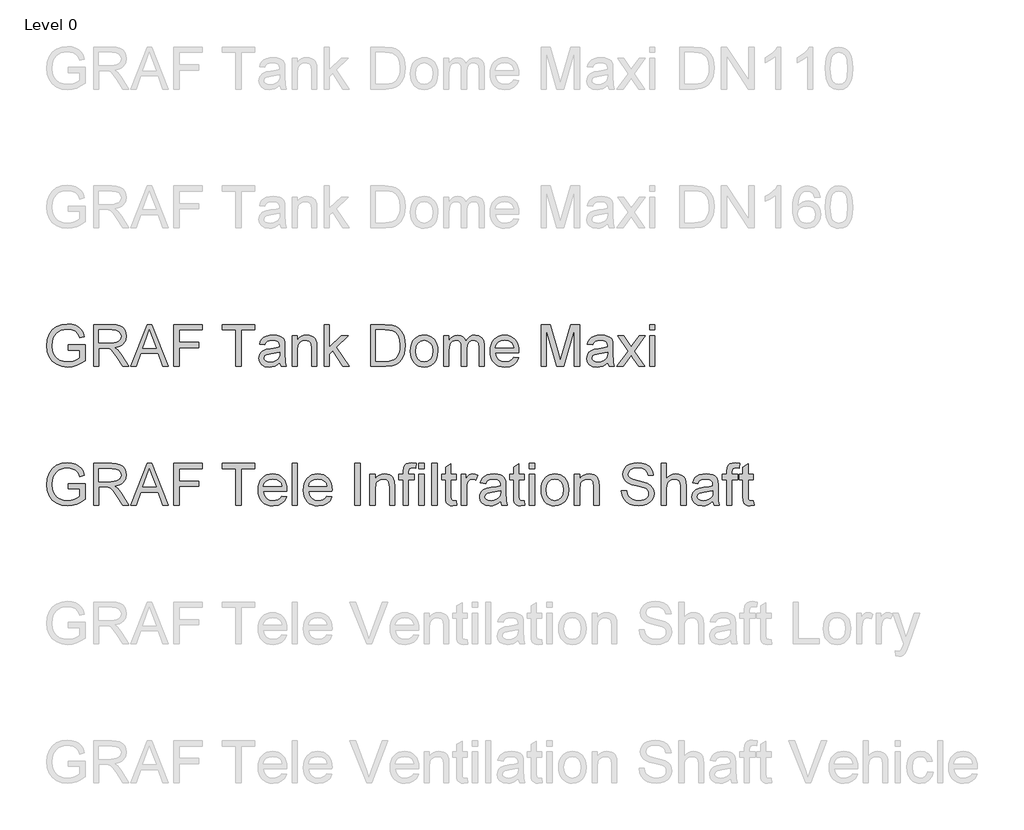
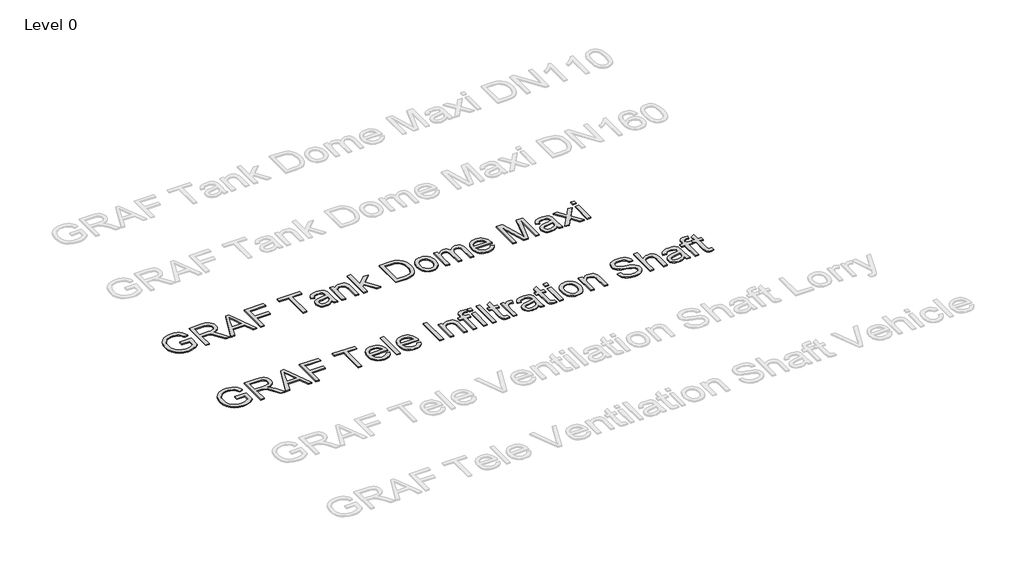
# One storey, part 7 of 25: 2 proxies.
"""IFC4 building model written with IfcOpenShell, lengths in millimetres."""

from ifc_helpers import new_model, si_unit, origin, origin_with_axes, place, context, project, spatial, polyline, outline, extrude, element, save

model = new_model("IFC4")

# Units and contexts
model_context = context("Model", 3, world=origin())
ifc_project = project(units=[si_unit("LENGTHUNIT", "METRE", prefix="MILLI")], contexts=[model_context])

# Site, building, storey
site = spatial("IfcSite", under=ifc_project)
building = spatial("IfcBuilding", under=site)
storey = spatial("IfcBuildingStorey", under=building, Name="Level 0", Elevation=0.0)

# Proxies
placement = place(None, origin())
element("IfcBuildingElementProxy", 1, Name="300mm Arial", ObjectType="300mm Arial", at=placement, inside=storey, context=model_context, shape_type="SweptSolid", body=[
    extrude(outline(polyline([(-15240.9940387, -5083.2545597), (-15240.9940387, -5045.5834434), (-15118.5629107, -5045.5834434), (-15118.5629107, -5158.2289103), (-15148.3153671, -5178.9222726), (-15179.0059225, -5193.7663111), (-15210.5610007, -5202.7058436), (-15242.9070251, -5205.6856877), (-15285.1674693, -5200.949207), (-15323.3628175, -5186.739765), (-15355.0926395, -5163.5540022), (-15377.9565055, -5131.8885595), (-15391.7796715, -5093.9047435), (-15396.3873935, -5051.7638609), (-15391.7980656, -5009.3194757), (-15378.0300819, -4969.8365406), (-15355.6536596, -4936.717964), (-15325.2390156, -4913.3666543), (-15288.1932987, -4899.5158972), (-15245.9236575, -4894.8989782), (-15214.8928112, -4897.5753197), (-15186.9889618, -4905.6043443), (-15163.4904994, -4918.4066377), (-15145.6758138, -4935.4027859), (-15132.4964413, -4957.4113262), (-15122.9039183, -4985.2507962), (-15157.6319786, -4995.0364573), (-15165.3850917, -4975.1800266), (-15174.8120678, -4960.1980323), (-15187.2832674, -4948.9040551), (-15204.169051, -4940.1116754), (-15224.3013932, -4934.4554897), (-15246.5122687, -4932.5700945), (-15272.5123287, -4934.6026425), (-15294.7415982, -4940.7002866), (-15313.1173039, -4950.0996716), (-15327.5566722, -4962.0374423), (-15346.9440533, -4991.0633317), (-15355.7732212, -5019.50061), (-15358.7162772, -5050.2187566), (-15355.175413, -5086.2436009), (-15344.5528204, -5115.8856927), (-15327.1703961, -5138.9334997), (-15303.3500369, -5155.1754898), (-15275.4737787, -5164.804801), (-15245.9236575, -5168.0145714), (-15219.831627, -5165.5957473), (-15194.3833899, -5158.3392749), (-15172.2828791, -5148.3420817), (-15156.234027, -5137.701095), (-15156.234027, -5083.2545597), (-15240.9940387, -5083.2545597)])), origin_with_axes(), (0.0, 0.0, 1.0), 10.0),
    extrude(outline(polyline([(-15057.3473467, -5200.9767982), (-15057.3473467, -4899.6078677), (-14927.4850024, -4899.6078677), (-14892.5821982, -4901.6404158), (-14867.1891434, -4907.7380598), (-14848.6294968, -4918.9952489), (-14834.2269167, -4936.5064318), (-14824.9838815, -4958.2206666), (-14821.9028698, -4982.087011), (-14827.0072325, -5011.7750881), (-14842.3203206, -5036.3863935), (-14853.9200997, -5046.4157764), (-14868.3019865, -5054.4310054), (-14905.4120827, -5064.4190016), (-14884.0013506, -5080.532233), (-14853.467145, -5119.3069952), (-14803.2144645, -5200.9767982), (-14846.9924219, -5200.9767982), (-14886.2086426, -5138.5104354), (-14914.5355562, -5097.1604991), (-14934.4379722, -5077.6259652), (-14952.3538253, -5070.4522663), (-14974.2060158, -5069.1278911), (-15019.6762304, -5069.1278911), (-15019.6762304, -5200.9767982), (-15057.3473467, -5200.9767982)]), holes=[polyline([(-15019.6762304, -5031.4567748), (-14935.3576771, -5031.4567748), (-14911.1418448, -5030.1232026), (-14892.3522719, -5026.1224859), (-14878.2072092, -5019.1879103), (-14867.9249074, -5009.0527613), (-14861.6617165, -4996.7930938), (-14859.5739861, -4983.4849626), (-14863.5563087, -4965.109257), (-14875.5032765, -4950.3020067), (-14896.058683, -4940.5347397), (-14925.8663217, -4937.278984), (-15019.6762304, -4937.278984), (-15019.6762304, -5031.4567748)])]), origin_with_axes(), (0.0, 0.0, 1.0), 10.0),
    extrude(outline(polyline([(-14791.0743586, -5200.9767982), (-14670.7769462, -4899.6078677), (-14638.6976362, -4899.6078677), (-14518.4002238, -5200.9767982), (-14558.2050557, -5200.9767982), (-14592.7123868, -5106.7990074), (-14716.835772, -5106.7990074), (-14751.2695268, -5200.9767982), (-14791.0743586, -5200.9767982)]), holes=[polyline([(-14703.003409, -5069.1278911), (-14606.4711735, -5069.1278911), (-14633.6208647, -4995.0364573), (-14654.7372912, -4937.278984), (-14673.499273, -4988.5617342), (-14703.003409, -5069.1278911)])]), origin_with_axes(), (0.0, 0.0, 1.0), 10.0),
    extrude(outline(polyline([(-14478.1539335, -5200.9767982), (-14478.1539335, -4899.6078677), (-14275.6716834, -4899.6078677), (-14275.6716834, -4937.278984), (-14440.4828172, -4937.278984), (-14440.4828172, -5026.7478853), (-14299.2161311, -5026.7478853), (-14299.2161311, -5064.4190016), (-14440.4828172, -5064.4190016), (-14440.4828172, -5200.9767982), (-14478.1539335, -5200.9767982)])), origin_with_axes(), (0.0, 0.0, 1.0), 10.0),
    extrude(outline(polyline([(-14030.8094274, -5200.9767982), (-14030.8094274, -4937.278984), (-14129.6961077, -4937.278984), (-14129.6961077, -4899.6078677), (-13894.2516308, -4899.6078677), (-13894.2516308, -4937.278984), (-13993.1383111, -4937.278984), (-13993.1383111, -5200.9767982), (-14030.8094274, -5200.9767982)])), origin_with_axes(), (0.0, 0.0, 1.0), 10.0),
    extrude(outline(polyline([(-13715.3138283, -5172.7234609), (-13733.312455, -5188.1561106), (-13751.8445105, -5198.2544714), (-13771.3330592, -5203.8278836), (-13792.2011653, -5205.6856877), (-13823.6826671, -5201.2159215), (-13846.905218, -5187.8066228), (-13861.2250247, -5167.4443543), (-13865.9982936, -5142.1156789), (-13864.1956718, -5126.4990883), (-13858.7878065, -5112.3172373), (-13850.4460822, -5100.1771315), (-13839.8418837, -5090.685776), (-13813.4647447, -5078.324941), (-13780.8703999, -5072.6595583), (-13742.353155, -5066.6998699), (-13715.5345575, -5059.710112), (-13715.3138283, -5051.3224025), (-13717.9073964, -5034.5101954), (-13725.6881006, -5023.5105237), (-13743.088919, -5015.3435434), (-13767.3323425, -5012.6212166), (-13789.7731442, -5014.4330355), (-13805.4449172, -5019.868492), (-13816.1318891, -5029.9208675), (-13823.6182877, -5045.5834434), (-13861.289404, -5040.8745539), (-13854.7503016, -5020.2731621), (-13844.9922316, -5004.0863544), (-13831.1046863, -4991.7071252), (-13812.1771577, -4982.5284694), (-13789.0281831, -4976.8446926), (-13762.4763001, -4974.9501003), (-13737.009669, -4976.6239634), (-13716.8221445, -4981.6455527), (-13701.601027, -4989.1963306), (-13691.0336167, -4998.4577598), (-13684.0254646, -5009.9080869), (-13679.482122, -5024.0255585), (-13677.642712, -5056.9877853), (-13677.642712, -5103.8559515), (-13675.7297257, -5169.3021584), (-13668.224933, -5200.9767982), (-13705.8960493, -5200.9767982), (-13715.3138283, -5172.7234609)]), holes=[polyline([(-13715.3138283, -5097.3812283), (-13776.0879339, -5108.932723), (-13808.4983377, -5115.0395641), (-13823.1768293, -5124.972378), (-13828.3271773, -5139.4669286), (-13825.522077, -5150.6689353), (-13817.1067764, -5159.8475911), (-13803.2652163, -5165.9728263), (-13784.1813378, -5168.0145714), (-13763.9478281, -5165.7612942), (-13746.0687631, -5159.0014625), (-13731.5742125, -5149.0410575), (-13721.4942459, -5137.1860602), (-13717.0244796, -5124.972378), (-13715.5345575, -5108.0498062), (-13715.3138283, -5097.3812283)])]), origin_with_axes(), (0.0, 0.0, 1.0), 10.0),
    extrude(outline(polyline([(-13625.8449271, -5200.9767982), (-13625.8449271, -4979.6589899), (-13588.1738108, -4979.6589899), (-13588.1738108, -5010.5610775), (-13575.0864088, -4994.981275), (-13559.3686506, -4983.8528446), (-13541.0205361, -4977.1757864), (-13520.0420653, -4974.9501003), (-13501.4732216, -4976.7435251), (-13484.4678764, -4982.1237992), (-13470.2860255, -4990.4195382), (-13460.1876647, -5000.9593574), (-13448.8936874, -5028.6608716), (-13446.9071247, -5065.0811892), (-13446.9071247, -5200.9767982), (-13484.578241, -5200.9767982), (-13484.578241, -5070.1579607), (-13488.9192485, -5036.8278519), (-13494.9249221, -5026.9042351), (-13504.2599277, -5019.2063044), (-13516.2252896, -5014.2674886), (-13530.122032, -5012.6212166), (-13552.1857546, -5016.3184307), (-13570.9937216, -5027.4100729), (-13578.5100106, -5036.4645685), (-13583.8787885, -5048.8391991), (-13588.1738108, -5083.5488653), (-13588.1738108, -5200.9767982), (-13625.8449271, -5200.9767982)])), origin_with_axes(), (0.0, 0.0, 1.0), 10.0),
    extrude(outline(polyline([(-13395.1093397, -5200.9767982), (-13395.1093397, -4899.6078677), (-13357.4382234, -4899.6078677), (-13357.4382234, -5061.549522), (-13272.9725173, -4979.6589899), (-13220.8804268, -4979.6589899), (-13306.3762025, -5062.5795916), (-13216.1715373, -5200.9767982), (-13260.1702239, -5200.9767982), (-13333.3787409, -5088.7727896), (-13357.4382234, -5112.0965081), (-13357.4382234, -5200.9767982), (-13395.1093397, -5200.9767982)])), origin_with_axes(), (0.0, 0.0, 1.0), 10.0),
    extrude(outline(polyline([(-13060.7781825, -5200.9767982), (-13060.7781825, -4899.6078677), (-12956.8147307, -4899.6078677), (-12903.030383, -4903.9488753), (-12879.0076887, -4912.3181907), (-12858.7373908, -4925.5067602), (-12837.8968757, -4948.4625967), (-12823.0528372, -4977.0102395), (-12814.1684871, -5010.5978657), (-12811.207037, -5048.6736522), (-12813.2119939, -5081.0196766), (-12819.2268645, -5109.484546), (-12828.3871262, -5133.7187724), (-12839.8282562, -5153.372868), (-12852.9984316, -5168.8882911), (-12867.3458295, -5180.7065002), (-12883.8177458, -5189.4712888), (-12903.3614768, -5195.8264502), (-12951.8115355, -5200.9767982), (-13060.7781825, -5200.9767982)]), holes=[polyline([(-13023.1070662, -5163.3056819), (-12956.4468487, -5163.3056819), (-12928.8740931, -5161.9445185), (-12907.9600017, -5157.8610283), (-12892.1778641, -5151.2943347), (-12880.0009701, -5142.4835609), (-12866.9135681, -5126.1771915), (-12857.0819218, -5105.069962), (-12850.9290954, -5079.069902), (-12848.8781533, -5048.085041), (-12852.8972641, -5007.0294103), (-12864.9545965, -4976.7159339), (-12882.7692821, -4955.893813), (-12904.0604526, -4943.3122488), (-12925.7287021, -4938.7873002), (-12957.4769183, -4937.278984), (-13023.1070662, -4937.278984), (-13023.1070662, -5163.3056819)])]), origin_with_axes(), (0.0, 0.0, 1.0), 10.0),
    extrude(outline(polyline([(-12773.5359207, -5090.317894), (-12771.4987741, -5061.6552881), (-12765.3873345, -5036.9566106), (-12755.2016018, -5016.2218617), (-12740.9415759, -4999.4510412), (-12726.5849811, -4988.7318796), (-12710.7384641, -4981.0753356), (-12693.4020251, -4976.4814091), (-12674.575664, -4974.9501003), (-12653.7926305, -4976.8148022), (-12635.0007584, -4982.4089078), (-12618.2000475, -4991.7324171), (-12603.3904979, -5004.7853302), (-12591.3032751, -5021.1261885), (-12582.6695445, -5040.3135338), (-12577.4893062, -5062.3473661), (-12575.7625601, -5087.2276853), (-12578.8159806, -5125.2850777), (-12587.9762423, -5154.2557848), (-12602.9766307, -5175.9516255), (-12623.5504313, -5192.1844185), (-12647.9869928, -5202.3103704), (-12674.575664, -5205.6856877), (-12695.6622001, -5203.8278836), (-12714.6288162, -5198.2544714), (-12731.4755123, -5188.965451), (-12746.2022884, -5175.9608225), (-12758.1607526, -5159.461315), (-12766.7025126, -5139.6876578), (-12771.8275687, -5116.6398508), (-12773.5359207, -5090.317894)]), holes=[polyline([(-12735.8648044, -5090.2443176), (-12731.5054027, -5124.3377815), (-12718.4271978, -5148.6271903), (-12698.7455111, -5163.1677261), (-12674.575664, -5168.0145714), (-12650.5161815, -5163.140135), (-12630.871283, -5148.5168257), (-12617.793078, -5123.9055202), (-12613.4336764, -5089.0670952), (-12617.8206692, -5055.9669127), (-12630.9816476, -5032.0085978), (-12650.6541372, -5017.4680619), (-12674.575664, -5012.6212166), (-12698.7455111, -5017.4496678), (-12718.4271978, -5031.9350214), (-12731.5054027, -5056.1692478), (-12735.8648044, -5090.2443176)])]), origin_with_axes(), (0.0, 0.0, 1.0), 10.0),
    extrude(outline(polyline([(-12533.3825542, -5200.9767982), (-12533.3825542, -4979.6589899), (-12495.7114379, -4979.6589899), (-12495.7114379, -5016.0793074), (-12484.3806725, -4999.3498737), (-12469.8125455, -4986.2440776), (-12452.5036976, -4977.7735947), (-12432.9507696, -4974.9501003), (-12411.9998899, -4977.828777), (-12395.2060768, -4986.4648068), (-12382.6613008, -5000.2879728), (-12374.4575323, -5018.7280578), (-12360.7263368, -4999.5752014), (-12345.0637609, -4985.8945897), (-12327.4698045, -4977.6862227), (-12307.9444676, -4974.9501003), (-12279.626751, -4979.50264), (-12258.6850684, -4993.1602591), (-12245.7448193, -5016.2908395), (-12241.4314029, -5049.2622634), (-12241.4314029, -5200.9767982), (-12279.1025192, -5200.9767982), (-12279.1025192, -5065.4490712), (-12282.5973981, -5033.9951606), (-12287.5086228, -5025.3223425), (-12295.2525388, -5018.5073286), (-12305.2129438, -5014.0927446), (-12316.7736355, -5012.6212166), (-12337.1818892, -5016.3920071), (-12353.8193524, -5027.7043784), (-12364.8834034, -5047.3308829), (-12368.5714204, -5076.0440726), (-12368.5714204, -5200.9767982), (-12406.2425367, -5200.9767982), (-12406.2425367, -5061.2552164), (-12408.4222375, -5039.9548489), (-12414.96134, -5024.7613225), (-12426.4668494, -5015.6562431), (-12443.545771, -5012.6212166), (-12458.0587157, -5014.6445676), (-12471.4312262, -5020.7146205), (-12482.4676861, -5030.6842226), (-12489.9724788, -5044.406221), (-12494.2766981, -5063.4441143), (-12495.7114379, -5089.3614008), (-12495.7114379, -5200.9767982), (-12533.3825542, -5200.9767982)])), origin_with_axes(), (0.0, 0.0, 1.0), 10.0),
    extrude(outline(polyline([(-12029.972832, -5135.0523446), (-11993.0374797, -5139.7612342), (-12006.3456109, -5167.5915071), (-12027.5815991, -5188.3952339), (-12056.2671976, -5201.3630743), (-12091.92416, -5205.6856877), (-12115.2984623, -5203.8209859), (-12136.1251817, -5198.2268803), (-12154.4043184, -5188.9033709), (-12170.1358722, -5175.8504579), (-12182.7864143, -5159.4314246), (-12191.8225158, -5140.0095545), (-12197.2441767, -5117.5848477), (-12199.051397, -5092.157304), (-12197.2257826, -5065.8675369), (-12191.7489394, -5042.6955698), (-12182.6208674, -5022.6414025), (-12169.8415666, -5005.7050351), (-12154.1513995, -4992.2497512), (-12136.2907286, -4982.638834), (-12116.259554, -4976.8722838), (-12094.0578756, -4974.9501003), (-12072.5712678, -4976.8676852), (-12053.1402007, -4982.6204399), (-12035.7646742, -4992.2083644), (-12020.4446884, -5005.6314587), (-12007.9389998, -5022.5310379), (-11999.0063651, -5042.548417), (-11993.6467843, -5065.6835959), (-11991.8602573, -5091.9365748), (-11992.0809865, -5102.0901179), (-12161.3802807, -5102.0901179), (-12154.8595723, -5130.2882728), (-12139.7120312, -5151.0184232), (-12117.8506436, -5163.7655344), (-12091.188396, -5168.0145714), (-12071.1388273, -5166.0464027), (-12054.2530437, -5160.1418967), (-12040.5310453, -5149.9331713), (-12029.972832, -5135.0523446)]), holes=[polyline([(-12161.3802807, -5064.4190016), (-12029.5313736, -5064.4190016), (-12034.6265393, -5044.5165856), (-12044.6145354, -5030.2795524), (-12066.5770906, -5017.0358006), (-12094.2050284, -5012.6212166), (-12119.5980831, -5016.1436868), (-12140.594948, -5026.7110971), (-12155.1906661, -5043.1830134), (-12161.3802807, -5064.4190016)])]), origin_with_axes(), (0.0, 0.0, 1.0), 10.0),
    extrude(outline(polyline([(-11831.758013, -5200.9767982), (-11831.758013, -4899.6078677), (-11766.9372055, -4899.6078677), (-11705.2801831, -5112.0229317), (-11692.8457717, -5156.3895004), (-11679.3812906, -5108.3441118), (-11618.7543378, -4899.6078677), (-11553.9335303, -4899.6078677), (-11553.9335303, -5200.9767982), (-11591.6046466, -5200.9767982), (-11591.6046466, -4937.278984), (-11667.3147612, -5200.9767982), (-11718.3767821, -5200.9767982), (-11794.0868967, -4937.278984), (-11794.0868967, -5200.9767982), (-11831.758013, -5200.9767982)])), origin_with_axes(), (0.0, 0.0, 1.0), 10.0),
    extrude(outline(polyline([(-11351.4512801, -5172.7234609), (-11369.4499067, -5188.1561106), (-11387.9819623, -5198.2544714), (-11407.4705109, -5203.8278836), (-11428.3386171, -5205.6856877), (-11459.8201189, -5201.2159215), (-11483.0426698, -5187.8066228), (-11497.3624765, -5167.4443543), (-11502.1357454, -5142.1156789), (-11500.3331236, -5126.4990883), (-11494.9252582, -5112.3172373), (-11486.583534, -5100.1771315), (-11475.9793355, -5090.685776), (-11449.6021964, -5078.324941), (-11417.0078517, -5072.6595583), (-11378.4906068, -5066.6998699), (-11351.6720093, -5059.710112), (-11351.4512801, -5051.3224025), (-11354.0448482, -5034.5101954), (-11361.8255524, -5023.5105237), (-11379.2263708, -5015.3435434), (-11403.4697942, -5012.6212166), (-11425.910596, -5014.4330355), (-11441.5823689, -5019.868492), (-11452.2693409, -5029.9208675), (-11459.7557395, -5045.5834434), (-11497.4268558, -5040.8745539), (-11490.8877534, -5020.2731621), (-11481.1296834, -5004.0863544), (-11467.2421381, -4991.7071252), (-11448.3146095, -4982.5284694), (-11425.1656349, -4976.8446926), (-11398.6137519, -4974.9501003), (-11373.1471208, -4976.6239634), (-11352.9595963, -4981.6455527), (-11337.7384788, -4989.1963306), (-11327.1710684, -4998.4577598), (-11320.1629164, -5009.9080869), (-11315.6195738, -5024.0255585), (-11313.7801638, -5056.9877853), (-11313.7801638, -5103.8559515), (-11311.8671774, -5169.3021584), (-11304.3623847, -5200.9767982), (-11342.0335011, -5200.9767982), (-11351.4512801, -5172.7234609)]), holes=[polyline([(-11351.4512801, -5097.3812283), (-11412.2253857, -5108.932723), (-11444.6357895, -5115.0395641), (-11459.3142811, -5124.972378), (-11464.464629, -5139.4669286), (-11461.6595288, -5150.6689353), (-11453.2442282, -5159.8475911), (-11439.4026681, -5165.9728263), (-11420.3187896, -5168.0145714), (-11400.0852799, -5165.7612942), (-11382.2062149, -5159.0014625), (-11367.7116643, -5149.0410575), (-11357.6316976, -5137.1860602), (-11353.1619314, -5124.972378), (-11351.6720093, -5108.0498062), (-11351.4512801, -5097.3812283)])]), origin_with_axes(), (0.0, 0.0, 1.0), 10.0),
    extrude(outline(polyline([(-11285.5268266, -5200.9767982), (-11205.0342461, -5089.7292828), (-11280.8179371, -4979.6589899), (-11235.4948753, -4979.6589899), (-11198.9274049, -5032.6339972), (-11181.8576804, -5057.6499729), (-11167.0688241, -5037.1957339), (-11125.4245823, -4979.6589899), (-11080.1015205, -4979.6589899), (-11159.7111842, -5089.7292828), (-11083.0445764, -5200.9767982), (-11128.3676383, -5200.9767982), (-11174.5000405, -5134.0958515), (-11182.9613263, -5121.8821692), (-11240.2037648, -5200.9767982), (-11285.5268266, -5200.9767982)])), origin_with_axes(), (0.0, 0.0, 1.0), 10.0),
    extrude(outline(polyline([(-11050.0823497, -4937.278984), (-11050.0823497, -4899.6078677), (-11012.4112334, -4899.6078677), (-11012.4112334, -4937.278984), (-11050.0823497, -4937.278984)])), origin_with_axes(), (0.0, 0.0, 1.0), 10.0),
    extrude(outline(polyline([(-11050.0823497, -5200.9767982), (-11050.0823497, -4979.6589899), (-11012.4112334, -4979.6589899), (-11012.4112334, -5200.9767982), (-11050.0823497, -5200.9767982)])), origin_with_axes(), (0.0, 0.0, 1.0), 10.0),
])
element("IfcBuildingElementProxy", 2, Name="300mm Arial", ObjectType="300mm Arial", at=placement, inside=storey, context=model_context, shape_type="SweptSolid", body=[
    extrude(outline(polyline([(-15240.9940387, -6083.2545597), (-15240.9940387, -6045.5834434), (-15118.5629107, -6045.5834434), (-15118.5629107, -6158.2289103), (-15148.3153671, -6178.9222726), (-15179.0059225, -6193.7663111), (-15210.5610007, -6202.7058436), (-15242.9070251, -6205.6856877), (-15285.1674693, -6200.949207), (-15323.3628175, -6186.739765), (-15355.0926395, -6163.5540022), (-15377.9565055, -6131.8885595), (-15391.7796715, -6093.9047435), (-15396.3873935, -6051.7638609), (-15391.7980656, -6009.3194757), (-15378.0300819, -5969.8365406), (-15355.6536596, -5936.717964), (-15325.2390156, -5913.3666543), (-15288.1932987, -5899.5158972), (-15245.9236575, -5894.8989782), (-15214.8928112, -5897.5753197), (-15186.9889618, -5905.6043443), (-15163.4904994, -5918.4066377), (-15145.6758138, -5935.4027859), (-15132.4964413, -5957.4113262), (-15122.9039183, -5985.2507962), (-15157.6319786, -5995.0364573), (-15165.3850917, -5975.1800266), (-15174.8120678, -5960.1980323), (-15187.2832674, -5948.9040551), (-15204.169051, -5940.1116754), (-15224.3013932, -5934.4554897), (-15246.5122687, -5932.5700945), (-15272.5123287, -5934.6026425), (-15294.7415982, -5940.7002866), (-15313.1173039, -5950.0996716), (-15327.5566722, -5962.0374423), (-15346.9440533, -5991.0633317), (-15355.7732212, -6019.50061), (-15358.7162772, -6050.2187566), (-15355.175413, -6086.2436009), (-15344.5528204, -6115.8856927), (-15327.1703961, -6138.9334997), (-15303.3500369, -6155.1754898), (-15275.4737787, -6164.804801), (-15245.9236575, -6168.0145714), (-15219.831627, -6165.5957473), (-15194.3833899, -6158.3392749), (-15172.2828791, -6148.3420817), (-15156.234027, -6137.701095), (-15156.234027, -6083.2545597), (-15240.9940387, -6083.2545597)])), origin_with_axes(), (0.0, 0.0, 1.0), 10.0),
    extrude(outline(polyline([(-15057.3473467, -6200.9767982), (-15057.3473467, -5899.6078677), (-14927.4850024, -5899.6078677), (-14892.5821982, -5901.6404158), (-14867.1891434, -5907.7380598), (-14848.6294968, -5918.9952489), (-14834.2269167, -5936.5064318), (-14824.9838815, -5958.2206666), (-14821.9028698, -5982.087011), (-14827.0072325, -6011.7750881), (-14842.3203206, -6036.3863935), (-14853.9200997, -6046.4157764), (-14868.3019865, -6054.4310054), (-14905.4120827, -6064.4190016), (-14884.0013506, -6080.532233), (-14853.467145, -6119.3069952), (-14803.2144645, -6200.9767982), (-14846.9924219, -6200.9767982), (-14886.2086426, -6138.5104354), (-14914.5355562, -6097.1604991), (-14934.4379722, -6077.6259652), (-14952.3538253, -6070.4522663), (-14974.2060158, -6069.1278911), (-15019.6762304, -6069.1278911), (-15019.6762304, -6200.9767982), (-15057.3473467, -6200.9767982)]), holes=[polyline([(-15019.6762304, -6031.4567748), (-14935.3576771, -6031.4567748), (-14911.1418448, -6030.1232026), (-14892.3522719, -6026.1224859), (-14878.2072092, -6019.1879103), (-14867.9249074, -6009.0527613), (-14861.6617165, -5996.7930938), (-14859.5739861, -5983.4849626), (-14863.5563087, -5965.109257), (-14875.5032765, -5950.3020067), (-14896.058683, -5940.5347397), (-14925.8663217, -5937.278984), (-15019.6762304, -5937.278984), (-15019.6762304, -6031.4567748)])]), origin_with_axes(), (0.0, 0.0, 1.0), 10.0),
    extrude(outline(polyline([(-14791.0743586, -6200.9767982), (-14670.7769462, -5899.6078677), (-14638.6976362, -5899.6078677), (-14518.4002238, -6200.9767982), (-14558.2050557, -6200.9767982), (-14592.7123868, -6106.7990074), (-14716.835772, -6106.7990074), (-14751.2695268, -6200.9767982), (-14791.0743586, -6200.9767982)]), holes=[polyline([(-14703.003409, -6069.1278911), (-14606.4711735, -6069.1278911), (-14633.6208647, -5995.0364573), (-14654.7372912, -5937.278984), (-14673.499273, -5988.5617342), (-14703.003409, -6069.1278911)])]), origin_with_axes(), (0.0, 0.0, 1.0), 10.0),
    extrude(outline(polyline([(-14478.1539335, -6200.9767982), (-14478.1539335, -5899.6078677), (-14275.6716834, -5899.6078677), (-14275.6716834, -5937.278984), (-14440.4828172, -5937.278984), (-14440.4828172, -6026.7478853), (-14299.2161311, -6026.7478853), (-14299.2161311, -6064.4190016), (-14440.4828172, -6064.4190016), (-14440.4828172, -6200.9767982), (-14478.1539335, -6200.9767982)])), origin_with_axes(), (0.0, 0.0, 1.0), 10.0),
    extrude(outline(polyline([(-14030.8094274, -6200.9767982), (-14030.8094274, -5937.278984), (-14129.6961077, -5937.278984), (-14129.6961077, -5899.6078677), (-13894.2516308, -5899.6078677), (-13894.2516308, -5937.278984), (-13993.1383111, -5937.278984), (-13993.1383111, -6200.9767982), (-14030.8094274, -6200.9767982)])), origin_with_axes(), (0.0, 0.0, 1.0), 10.0),
    extrude(outline(polyline([(-13701.6286181, -6135.0523446), (-13664.6932658, -6139.7612342), (-13678.001397, -6167.5915071), (-13699.2373851, -6188.3952339), (-13727.9229837, -6201.3630743), (-13763.5799461, -6205.6856877), (-13786.9542484, -6203.8209859), (-13807.7809678, -6198.2268803), (-13826.0601045, -6188.9033709), (-13841.7916583, -6175.8504579), (-13854.4422004, -6159.4314246), (-13863.4783019, -6140.0095545), (-13868.8999628, -6117.5848477), (-13870.7071831, -6092.157304), (-13868.8815687, -6065.8675369), (-13863.4047255, -6042.6955698), (-13854.2766535, -6022.6414025), (-13841.4973527, -6005.7050351), (-13825.8071856, -5992.2497512), (-13807.9465147, -5982.638834), (-13787.9153401, -5976.8722838), (-13765.7136617, -5974.9501003), (-13744.2270539, -5976.8676852), (-13724.7959868, -5982.6204399), (-13707.4204603, -5992.2083644), (-13692.1004744, -6005.6314587), (-13679.5947859, -6022.5310379), (-13670.6621512, -6042.548417), (-13665.3025704, -6065.6835959), (-13663.5160434, -6091.9365748), (-13663.7367726, -6102.0901179), (-13833.0360668, -6102.0901179), (-13826.5153584, -6130.2882728), (-13811.3678173, -6151.0184232), (-13789.5064297, -6163.7655344), (-13762.8441821, -6168.0145714), (-13742.7946134, -6166.0464027), (-13725.9088298, -6160.1418967), (-13712.1868314, -6149.9331713), (-13701.6286181, -6135.0523446)]), holes=[polyline([(-13833.0360668, -6064.4190016), (-13701.1871597, -6064.4190016), (-13706.2823254, -6044.5165856), (-13716.2703215, -6030.2795524), (-13738.2328766, -6017.0358006), (-13765.8608145, -6012.6212166), (-13791.2538692, -6016.1436868), (-13812.2507341, -6026.7110971), (-13826.8464522, -6043.1830134), (-13833.0360668, -6064.4190016)])]), origin_with_axes(), (0.0, 0.0, 1.0), 10.0),
    extrude(outline(polyline([(-13625.8449271, -6200.9767982), (-13625.8449271, -5899.6078677), (-13588.1738108, -5899.6078677), (-13588.1738108, -6200.9767982), (-13625.8449271, -6200.9767982)])), origin_with_axes(), (0.0, 0.0, 1.0), 10.0),
    extrude(outline(polyline([(-13376.71524, -6135.0523446), (-13339.7798877, -6139.7612342), (-13353.0880188, -6167.5915071), (-13374.324007, -6188.3952339), (-13403.0096056, -6201.3630743), (-13438.666568, -6205.6856877), (-13462.0408702, -6203.8209859), (-13482.8675897, -6198.2268803), (-13501.1467263, -6188.9033709), (-13516.8782801, -6175.8504579), (-13529.5288222, -6159.4314246), (-13538.5649238, -6140.0095545), (-13543.9865847, -6117.5848477), (-13545.793805, -6092.157304), (-13543.9681906, -6065.8675369), (-13538.4913474, -6042.6955698), (-13529.3632754, -6022.6414025), (-13516.5839745, -6005.7050351), (-13500.8938074, -5992.2497512), (-13483.0331366, -5982.638834), (-13463.0019619, -5976.8722838), (-13440.8002835, -5974.9501003), (-13419.3136758, -5976.8676852), (-13399.8826086, -5982.6204399), (-13382.5070821, -5992.2083644), (-13367.1870963, -6005.6314587), (-13354.6814077, -6022.5310379), (-13345.748773, -6042.548417), (-13340.3891922, -6065.6835959), (-13338.6026653, -6091.9365748), (-13338.8233945, -6102.0901179), (-13508.1226887, -6102.0901179), (-13501.6019803, -6130.2882728), (-13486.4544391, -6151.0184232), (-13464.5930516, -6163.7655344), (-13437.930804, -6168.0145714), (-13417.8812352, -6166.0464027), (-13400.9954517, -6160.1418967), (-13387.2734532, -6149.9331713), (-13376.71524, -6135.0523446)]), holes=[polyline([(-13508.1226887, -6064.4190016), (-13376.2737816, -6064.4190016), (-13381.3689472, -6044.5165856), (-13391.3569434, -6030.2795524), (-13413.3194985, -6017.0358006), (-13440.9474363, -6012.6212166), (-13466.3404911, -6016.1436868), (-13487.3373559, -6026.7110971), (-13501.9330741, -6043.1830134), (-13508.1226887, -6064.4190016)])]), origin_with_axes(), (0.0, 0.0, 1.0), 10.0),
    extrude(outline(polyline([(-13173.7915314, -6200.9767982), (-13173.7915314, -5899.6078677), (-13136.1204151, -5899.6078677), (-13136.1204151, -6200.9767982), (-13173.7915314, -6200.9767982)])), origin_with_axes(), (0.0, 0.0, 1.0), 10.0),
    extrude(outline(polyline([(-13065.4870721, -6200.9767982), (-13065.4870721, -5979.6589899), (-13027.8159558, -5979.6589899), (-13027.8159558, -6010.5610775), (-13014.7285538, -5994.981275), (-12999.0107955, -5983.8528446), (-12980.662681, -5977.1757864), (-12959.6842102, -5974.9501003), (-12941.1153665, -5976.7435251), (-12924.1100213, -5982.1237992), (-12909.9281704, -5990.4195382), (-12899.8298096, -6000.9593574), (-12888.5358324, -6028.6608716), (-12886.5492696, -6065.0811892), (-12886.5492696, -6200.9767982), (-12924.2203859, -6200.9767982), (-12924.2203859, -6070.1579607), (-12928.5613935, -6036.8278519), (-12934.567067, -6026.9042351), (-12943.9020727, -6019.2063044), (-12955.8674345, -6014.2674886), (-12969.7641769, -6012.6212166), (-12991.8278996, -6016.3184307), (-13010.6358666, -6027.4100729), (-13018.1521556, -6036.4645685), (-13023.5209335, -6048.8391991), (-13027.8159558, -6083.5488653), (-13027.8159558, -6200.9767982), (-13065.4870721, -6200.9767982)])), origin_with_axes(), (0.0, 0.0, 1.0), 10.0),
    extrude(outline(polyline([(-12825.3337056, -6200.9767982), (-12825.3337056, -6017.3301062), (-12858.2959324, -6017.3301062), (-12858.2959324, -5979.6589899), (-12825.3337056, -5979.6589899), (-12825.3337056, -5957.365341), (-12821.3605801, -5925.9482186), (-12813.782211, -5913.4218366), (-12802.0835635, -5903.5074169), (-12785.7128147, -5897.0510879), (-12764.1181416, -5894.8989782), (-12729.7579633, -5899.0192565), (-12735.2761932, -5934.3359281), (-12756.9812309, -5932.5700945), (-12771.3010376, -5934.133593), (-12780.7096196, -5938.8240884), (-12785.9243469, -5947.782015), (-12787.6625893, -5962.1478069), (-12787.6625893, -5979.6589899), (-12745.2825835, -5979.6589899), (-12745.2825835, -6017.3301062), (-12787.6625893, -6017.3301062), (-12787.6625893, -6200.9767982), (-12825.3337056, -6200.9767982)])), origin_with_axes(), (0.0, 0.0, 1.0), 10.0),
    extrude(outline(polyline([(-12712.3203567, -5937.278984), (-12712.3203567, -5899.6078677), (-12674.6492404, -5899.6078677), (-12674.6492404, -5937.278984), (-12712.3203567, -5937.278984)])), origin_with_axes(), (0.0, 0.0, 1.0), 10.0),
    extrude(outline(polyline([(-12712.3203567, -6200.9767982), (-12712.3203567, -5979.6589899), (-12674.6492404, -5979.6589899), (-12674.6492404, -6200.9767982), (-12712.3203567, -6200.9767982)])), origin_with_axes(), (0.0, 0.0, 1.0), 10.0),
    extrude(outline(polyline([(-12618.1425659, -6200.9767982), (-12618.1425659, -5899.6078677), (-12580.4714496, -5899.6078677), (-12580.4714496, -6200.9767982), (-12618.1425659, -6200.9767982)])), origin_with_axes(), (0.0, 0.0, 1.0), 10.0),
    extrude(outline(polyline([(-12443.913653, -6169.5596758), (-12439.2047635, -6202.0804442), (-12467.3845243, -6205.6856877), (-12485.4659244, -6204.1221892), (-12498.9487995, -6199.4316938), (-12508.4769432, -6192.2028126), (-12514.6941489, -6183.0241568), (-12518.1154514, -6167.2604133), (-12519.2558856, -6140.276269), (-12519.2558856, -6017.3301062), (-12547.5092228, -6017.3301062), (-12547.5092228, -5979.6589899), (-12519.2558856, -5979.6589899), (-12519.2558856, -5925.8746422), (-12481.5847693, -5903.7281461), (-12481.5847693, -5979.6589899), (-12443.913653, -5979.6589899), (-12443.913653, -6017.3301062), (-12481.5847693, -6017.3301062), (-12481.5847693, -6139.172623), (-12479.5982065, -6158.5967923), (-12473.1602716, -6165.4761856), (-12460.32119, -6168.0145714), (-12443.913653, -6169.5596758)])), origin_with_axes(), (0.0, 0.0, 1.0), 10.0),
    extrude(outline(polyline([(-12406.2425367, -6200.9767982), (-12406.2425367, -5979.6589899), (-12373.2803099, -5979.6589899), (-12373.2803099, -6012.4004875), (-12361.1034159, -5993.4177765), (-12349.883015, -5982.2341638), (-12338.625826, -5976.7711162), (-12326.3385673, -5974.9501003), (-12307.5765856, -5977.8563681), (-12288.5202982, -5986.5751714), (-12301.1018625, -6020.3467385), (-12314.3456143, -6014.5525971), (-12327.5893661, -6012.6212166), (-12338.8373581, -6014.4790207), (-12348.8897337, -6020.052433), (-12357.0107287, -6028.918389), (-12362.4645793, -6040.6538247), (-12367.0447101, -6061.6966748), (-12368.5714204, -6084.6525113), (-12368.5714204, -6200.9767982), (-12406.2425367, -6200.9767982)])), origin_with_axes(), (0.0, 0.0, 1.0), 10.0),
    extrude(outline(polyline([(-12123.7091644, -6172.7234609), (-12141.707791, -6188.1561106), (-12160.2398465, -6198.2544714), (-12179.7283952, -6203.8278836), (-12200.5965014, -6205.6856877), (-12232.0780031, -6201.2159215), (-12255.3005541, -6187.8066228), (-12269.6203607, -6167.4443543), (-12274.3936296, -6142.1156789), (-12272.5910079, -6126.4990883), (-12267.1831425, -6112.3172373), (-12258.8414183, -6100.1771315), (-12248.2372198, -6090.685776), (-12221.8600807, -6078.324941), (-12189.2657359, -6072.6595583), (-12150.7484911, -6066.6998699), (-12123.9298936, -6059.710112), (-12123.7091644, -6051.3224025), (-12126.3027325, -6034.5101954), (-12134.0834367, -6023.5105237), (-12151.484255, -6015.3435434), (-12175.7276785, -6012.6212166), (-12198.1684802, -6014.4330355), (-12213.8402532, -6019.868492), (-12224.5272252, -6029.9208675), (-12232.0136238, -6045.5834434), (-12269.6847401, -6040.8745539), (-12263.1456376, -6020.2731621), (-12253.3875677, -6004.0863544), (-12239.5000224, -5991.7071252), (-12220.5724937, -5982.5284694), (-12197.4235192, -5976.8446926), (-12170.8716362, -5974.9501003), (-12145.4050051, -5976.6239634), (-12125.2174806, -5981.6455527), (-12109.996363, -5989.1963306), (-12099.4289527, -5998.4577598), (-12092.4208007, -6009.9080869), (-12087.8774581, -6024.0255585), (-12086.0380481, -6056.9877853), (-12086.0380481, -6103.8559515), (-12084.1250617, -6169.3021584), (-12076.620269, -6200.9767982), (-12114.2913853, -6200.9767982), (-12123.7091644, -6172.7234609)]), holes=[polyline([(-12123.7091644, -6097.3812283), (-12184.48327, -6108.932723), (-12216.8936738, -6115.0395641), (-12231.5721654, -6124.972378), (-12236.7225133, -6139.4669286), (-12233.9174131, -6150.6689353), (-12225.5021125, -6159.8475911), (-12211.6605524, -6165.9728263), (-12192.5766739, -6168.0145714), (-12172.3431642, -6165.7612942), (-12154.4640992, -6159.0014625), (-12139.9695486, -6149.0410575), (-12129.8895819, -6137.1860602), (-12125.4198157, -6124.972378), (-12123.9298936, -6108.0498062), (-12123.7091644, -6097.3812283)])]), origin_with_axes(), (0.0, 0.0, 1.0), 10.0),
    extrude(outline(polyline([(-11954.189141, -6169.5596758), (-11949.4802515, -6202.0804442), (-11977.6600123, -6205.6856877), (-11995.7414124, -6204.1221892), (-12009.2242875, -6199.4316938), (-12018.7524312, -6192.2028126), (-12024.9696369, -6183.0241568), (-12028.3909395, -6167.2604133), (-12029.5313736, -6140.276269), (-12029.5313736, -6017.3301062), (-12057.7847109, -6017.3301062), (-12057.7847109, -5979.6589899), (-12029.5313736, -5979.6589899), (-12029.5313736, -5925.8746422), (-11991.8602573, -5903.7281461), (-11991.8602573, -5979.6589899), (-11954.189141, -5979.6589899), (-11954.189141, -6017.3301062), (-11991.8602573, -6017.3301062), (-11991.8602573, -6139.172623), (-11989.8736946, -6158.5967923), (-11983.4357596, -6165.4761856), (-11970.596678, -6168.0145714), (-11954.189141, -6169.5596758)])), origin_with_axes(), (0.0, 0.0, 1.0), 10.0),
    extrude(outline(polyline([(-11916.5180247, -5937.278984), (-11916.5180247, -5899.6078677), (-11878.8469084, -5899.6078677), (-11878.8469084, -5937.278984), (-11916.5180247, -5937.278984)])), origin_with_axes(), (0.0, 0.0, 1.0), 10.0),
    extrude(outline(polyline([(-11916.5180247, -6200.9767982), (-11916.5180247, -5979.6589899), (-11878.8469084, -5979.6589899), (-11878.8469084, -6200.9767982), (-11916.5180247, -6200.9767982)])), origin_with_axes(), (0.0, 0.0, 1.0), 10.0),
    extrude(outline(polyline([(-11831.758013, -6090.317894), (-11829.7208665, -6061.6552881), (-11823.6094268, -6036.9566106), (-11813.4236941, -6016.2218617), (-11799.1636683, -5999.4510412), (-11784.8070734, -5988.7318796), (-11768.9605565, -5981.0753356), (-11751.6241174, -5976.4814091), (-11732.7977563, -5974.9501003), (-11712.0147229, -5976.8148022), (-11693.2228507, -5982.4089078), (-11676.4221398, -5991.7324171), (-11661.6125903, -6004.7853302), (-11649.5253675, -6021.1261885), (-11640.8916369, -6040.3135338), (-11635.7113985, -6062.3473661), (-11633.9846524, -6087.2276853), (-11637.038073, -6125.2850777), (-11646.1983347, -6154.2557848), (-11661.198723, -6175.9516255), (-11681.7725236, -6192.1844185), (-11706.2090851, -6202.3103704), (-11732.7977563, -6205.6856877), (-11753.8842924, -6203.8278836), (-11772.8509086, -6198.2544714), (-11789.6976047, -6188.965451), (-11804.4243808, -6175.9608225), (-11816.3828449, -6159.461315), (-11824.924605, -6139.6876578), (-11830.049661, -6116.6398508), (-11831.758013, -6090.317894)]), holes=[polyline([(-11794.0868967, -6090.2443176), (-11789.7274951, -6124.3377815), (-11776.6492902, -6148.6271903), (-11756.9676034, -6163.1677261), (-11732.7977563, -6168.0145714), (-11708.7382738, -6163.140135), (-11689.0933753, -6148.5168257), (-11676.0151704, -6123.9055202), (-11671.6557687, -6089.0670952), (-11676.0427615, -6055.9669127), (-11689.2037399, -6032.0085978), (-11708.8762296, -6017.4680619), (-11732.7977563, -6012.6212166), (-11756.9676034, -6017.4496678), (-11776.6492902, -6031.9350214), (-11789.7274951, -6056.1692478), (-11794.0868967, -6090.2443176)])]), origin_with_axes(), (0.0, 0.0, 1.0), 10.0),
    extrude(outline(polyline([(-11591.6046466, -6200.9767982), (-11591.6046466, -5979.6589899), (-11553.9335303, -5979.6589899), (-11553.9335303, -6010.5610775), (-11540.8461283, -5994.981275), (-11525.1283701, -5983.8528446), (-11506.7802555, -5977.1757864), (-11485.8017848, -5974.9501003), (-11467.2329411, -5976.7435251), (-11450.2275958, -5982.1237992), (-11436.0457449, -5990.4195382), (-11425.9473842, -6000.9593574), (-11414.6534069, -6028.6608716), (-11412.6668441, -6065.0811892), (-11412.6668441, -6200.9767982), (-11450.3379604, -6200.9767982), (-11450.3379604, -6070.1579607), (-11454.678968, -6036.8278519), (-11460.6846415, -6026.9042351), (-11470.0196472, -6019.2063044), (-11481.9850091, -6014.2674886), (-11495.8817514, -6012.6212166), (-11517.9454741, -6016.3184307), (-11536.7534411, -6027.4100729), (-11544.2697301, -6036.4645685), (-11549.638508, -6048.8391991), (-11553.9335303, -6083.5488653), (-11553.9335303, -6200.9767982), (-11591.6046466, -6200.9767982)])), origin_with_axes(), (0.0, 0.0, 1.0), 10.0),
    extrude(outline(polyline([(-11252.5645998, -6097.3812283), (-11214.8934835, -6097.3812283), (-11210.5708701, -6118.2861227), (-11202.7533777, -6135.0891328), (-11190.5580895, -6148.4248552), (-11173.1020889, -6158.9278861), (-11151.7649331, -6165.7429001), (-11127.9261799, -6168.0145714), (-11106.938512, -6166.2947231), (-11088.5628064, -6161.1351781), (-11073.6727826, -6152.9681978), (-11063.1421605, -6142.2260435), (-11056.8789695, -6129.8927997), (-11054.7912392, -6116.9525505), (-11056.3547377, -6104.3433951), (-11061.0452331, -6093.444891), (-11070.5733768, -6084.1466736), (-11086.64982, -6076.3383782), (-11141.5010255, -6061.9541922), (-11177.5074758, -6052.4352456), (-11200.5460857, -6043.3761514), (-11219.2988704, -6030.7026167), (-11232.5886075, -6015.3435434), (-11240.5072674, -5997.6300253), (-11243.1468208, -5977.8931563), (-11239.881868, -5955.8294336), (-11230.0870099, -5935.2556331), (-11214.0197638, -5917.8180265), (-11191.937647, -5905.1628859), (-11165.4317493, -5897.4649551), (-11136.0931602, -5894.8989782), (-11104.3081558, -5897.5845168), (-11076.4962769, -5905.6411325), (-11053.650805, -5918.9032784), (-11036.7650215, -5937.2054076), (-11026.0780495, -5959.407086), (-11021.8290125, -5984.3678794), (-11059.5001288, -5984.3678794), (-11066.4163103, -5961.8902895), (-11080.8372845, -5945.6666935), (-11103.3700567, -5935.8442443), (-11134.6216322, -5932.5700945), (-11166.6089717, -5935.8074561), (-11188.5531327, -5945.5195407), (-11201.2450615, -5959.8117562), (-11205.4757044, -5976.7895103), (-11202.4774662, -5991.2656668), (-11193.4827514, -6002.909132), (-11172.2191721, -6013.3201924), (-11131.9728818, -6023.9519821), (-11090.4390046, -6034.0503429), (-11065.3126643, -6042.8611167), (-11043.8375528, -6056.5279328), (-11028.8555586, -6073.3953223), (-11020.0539818, -6093.2793441), (-11017.1201229, -6115.9960573), (-11020.4954402, -6139.2186082), (-11030.6213921, -6161.0616017), (-11047.0841114, -6179.8603717), (-11069.4697308, -6193.9502521), (-11096.3894958, -6202.7518288), (-11126.4546519, -6205.6856877), (-11163.362413, -6202.5219026), (-11193.7402688, -6193.0305471), (-11217.937707, -6177.1748331), (-11236.3042156, -6154.9179724), (-11248.0948336, -6127.8050693), (-11252.5645998, -6097.3812283)])), origin_with_axes(), (0.0, 0.0, 1.0), 10.0),
    extrude(outline(polyline([(-10965.322338, -6200.9767982), (-10965.322338, -5899.6078677), (-10927.6512217, -5899.6078677), (-10927.6512217, -6010.4139247), (-10913.8142601, -5994.8985015), (-10898.2758444, -5983.8160564), (-10881.0359744, -5977.1665894), (-10862.0946501, -5974.9501003), (-10839.3411487, -5977.3689245), (-10819.7882207, -5984.6253968), (-10804.3923592, -5996.1493003), (-10794.1100574, -6011.3704179), (-10788.315916, -6032.2845093), (-10786.3845355, -6060.8873344), (-10786.3845355, -6200.9767982), (-10824.0556518, -6200.9767982), (-10824.0556518, -6064.7868836), (-10827.0538901, -6041.2056477), (-10836.0486049, -6025.0556281), (-10850.5431555, -6015.7298195), (-10870.0409012, -6012.6212166), (-10885.9609946, -6014.718144), (-10900.9062006, -6021.0089261), (-10913.2854298, -6030.8865577), (-10921.5075924, -6043.7440334), (-10926.1153144, -6060.8321521), (-10927.6512217, -6083.4017125), (-10927.6512217, -6200.9767982), (-10965.322338, -6200.9767982)])), origin_with_axes(), (0.0, 0.0, 1.0), 10.0),
    extrude(outline(polyline([(-10593.3200645, -6172.7234609), (-10611.3186911, -6188.1561106), (-10629.8507466, -6198.2544714), (-10649.3392953, -6203.8278836), (-10670.2074015, -6205.6856877), (-10701.6889032, -6201.2159215), (-10724.9114541, -6187.8066228), (-10739.2312608, -6167.4443543), (-10744.0045297, -6142.1156789), (-10742.2019079, -6126.4990883), (-10736.7940426, -6112.3172373), (-10728.4523183, -6100.1771315), (-10717.8481198, -6090.685776), (-10691.4709808, -6078.324941), (-10658.876636, -6072.6595583), (-10620.3593911, -6066.6998699), (-10593.5407937, -6059.710112), (-10593.3200645, -6051.3224025), (-10595.9136325, -6034.5101954), (-10603.6943367, -6023.5105237), (-10621.0951551, -6015.3435434), (-10645.3385786, -6012.6212166), (-10667.7793803, -6014.4330355), (-10683.4511533, -6019.868492), (-10694.1381252, -6029.9208675), (-10701.6245239, -6045.5834434), (-10739.2956402, -6040.8745539), (-10732.7565377, -6020.2731621), (-10722.9984678, -6004.0863544), (-10709.1109225, -5991.7071252), (-10690.1833938, -5982.5284694), (-10667.0344193, -5976.8446926), (-10640.4825363, -5974.9501003), (-10615.0159051, -5976.6239634), (-10594.8283807, -5981.6455527), (-10579.6072631, -5989.1963306), (-10569.0398528, -5998.4577598), (-10562.0317008, -6009.9080869), (-10557.4883581, -6024.0255585), (-10555.6489482, -6056.9877853), (-10555.6489482, -6103.8559515), (-10553.7359618, -6169.3021584), (-10546.2311691, -6200.9767982), (-10583.9022854, -6200.9767982), (-10593.3200645, -6172.7234609)]), holes=[polyline([(-10593.3200645, -6097.3812283), (-10654.0941701, -6108.932723), (-10686.5045738, -6115.0395641), (-10701.1830655, -6124.972378), (-10706.3334134, -6139.4669286), (-10703.5283132, -6150.6689353), (-10695.1130125, -6159.8475911), (-10681.2714525, -6165.9728263), (-10662.187574, -6168.0145714), (-10641.9540642, -6165.7612942), (-10624.0749993, -6159.0014625), (-10609.5804487, -6149.0410575), (-10599.500482, -6137.1860602), (-10595.0307157, -6124.972378), (-10593.5407937, -6108.0498062), (-10593.3200645, -6097.3812283)])]), origin_with_axes(), (0.0, 0.0, 1.0), 10.0),
    extrude(outline(polyline([(-10494.4333842, -6200.9767982), (-10494.4333842, -6017.3301062), (-10527.3956109, -6017.3301062), (-10527.3956109, -5979.6589899), (-10494.4333842, -5979.6589899), (-10494.4333842, -5957.365341), (-10490.4602586, -5925.9482186), (-10482.8818895, -5913.4218366), (-10471.1832421, -5903.5074169), (-10454.8124933, -5897.0510879), (-10433.2178202, -5894.8989782), (-10398.8576418, -5899.0192565), (-10404.3758717, -5934.3359281), (-10426.0809095, -5932.5700945), (-10440.4007161, -5934.133593), (-10449.8092982, -5938.8240884), (-10455.0240254, -5947.782015), (-10456.7622679, -5962.1478069), (-10456.7622679, -5979.6589899), (-10414.382262, -5979.6589899), (-10414.382262, -6017.3301062), (-10456.7622679, -6017.3301062), (-10456.7622679, -6200.9767982), (-10494.4333842, -6200.9767982)])), origin_with_axes(), (0.0, 0.0, 1.0), 10.0),
    extrude(outline(polyline([(-10301.3689131, -6169.5596758), (-10296.6600236, -6202.0804442), (-10324.8397844, -6205.6856877), (-10342.9211845, -6204.1221892), (-10356.4040596, -6199.4316938), (-10365.9322033, -6192.2028126), (-10372.149409, -6183.0241568), (-10375.5707115, -6167.2604133), (-10376.7111457, -6140.276269), (-10376.7111457, -6017.3301062), (-10404.9644829, -6017.3301062), (-10404.9644829, -5979.6589899), (-10376.7111457, -5979.6589899), (-10376.7111457, -5925.8746422), (-10339.0400294, -5903.7281461), (-10339.0400294, -5979.6589899), (-10301.3689131, -5979.6589899), (-10301.3689131, -6017.3301062), (-10339.0400294, -6017.3301062), (-10339.0400294, -6139.172623), (-10337.0534666, -6158.5967923), (-10330.6155317, -6165.4761856), (-10317.7764501, -6168.0145714), (-10301.3689131, -6169.5596758)])), origin_with_axes(), (0.0, 0.0, 1.0), 10.0),
])

save(model, "model.ifc")
